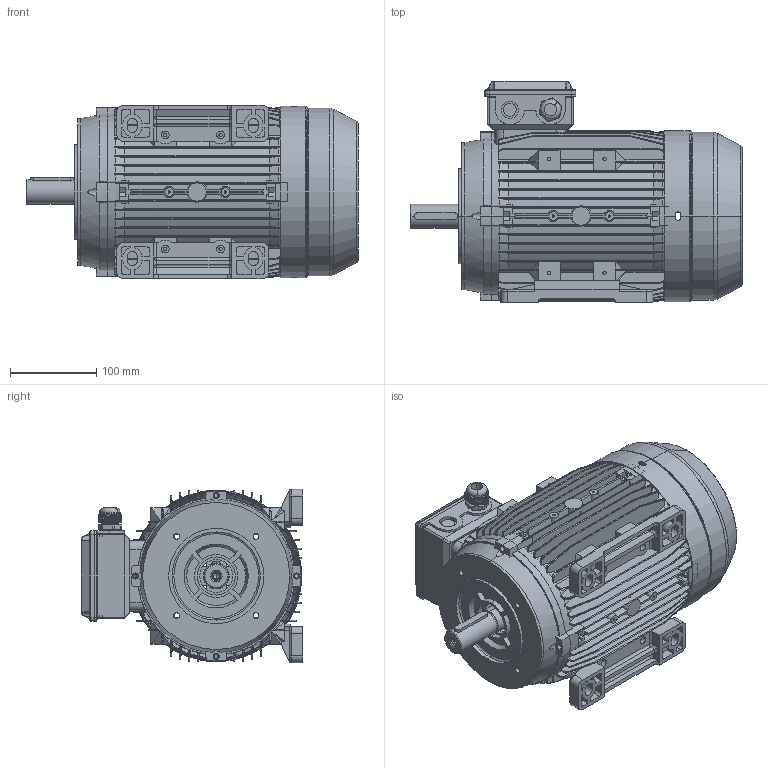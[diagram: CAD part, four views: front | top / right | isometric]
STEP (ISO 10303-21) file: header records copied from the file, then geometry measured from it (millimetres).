
FILE_DESCRIPTION (( 'STEP AP203' ), '1' );
FILE_NAME ('ME100 assembly B34.STEP', '2016-04-29T08:23:18', ( 'PC' ), ( 'Microsoft' ), 'SwSTEP 2.0', 'SolidWorks 2014', '' );
FILE_SCHEMA (( 'CONFIG_CONTROL_DESIGN' ));
Length unit declared in the file: millimetre
Products named in the file (9): M20 cable gland; M100瑞欶_090; MS100諉盄碟釱; M100-Shaft drive end; ME100 菁褐_default; MS100諉盄碟裔; ME100傷裔B14; ME100儂褲_樓馱; ME100  assembly B34
Assembly tree (9 placements, depth 2):
  ME100  assembly B34
    ME100儂褲_樓馱
    MS100諉盄碟釱
    MS100諉盄碟裔
    M20 cable gland
    M100-Shaft drive end
    ME100傷裔B14
    M100瑞欶_090
    ME100 菁褐_default  x2
Bounding box: 384 x 256 x 201 mm (x, y, z)
Volume: 1534415.7 mm3; surface area: 897841.5 mm2
Topology: 9 solids, 9 shells, 3704 faces, 9996 edges, 6339 vertices
Faces by surface type: plane 1787, cylinder 886, bspline 760, cone 193, torus 74, sphere 4
Entity records: 154935 total; most frequent: CARTESIAN_POINT 70069, ORIENTED_EDGE 19178, DIRECTION 14923, EDGE_CURVE 9589, VERTEX_POINT 6111, VECTOR 5219, LINE 5219, AXIS2_PLACEMENT_3D 4852
